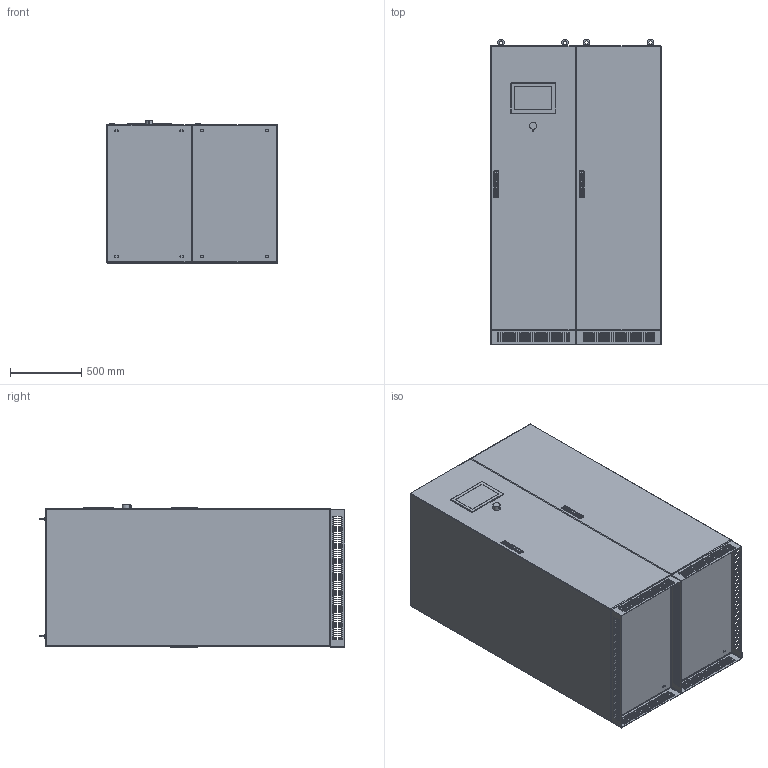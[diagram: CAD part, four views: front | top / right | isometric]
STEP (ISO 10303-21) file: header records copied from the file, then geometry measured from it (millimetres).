
FILE_DESCRIPTION(/* description */ (''),/* implementation_level */ '2;1');
FILE_NAME(/* name */ 'VEDAUPS P600.stp',/* time_stamp */ '2026-02-25T09:07:43+04:00',/* author */ ('Александр (огранич)'),/* organization */ (''),/* preprocessor_version */ 'ST-DEVELOPER v19.2',/* originating_system */ 'Autodesk Inventor 2024',/* authorisation */ '');
FILE_SCHEMA (('AUTOMOTIVE_DESIGN { 1 0 10303 214 3 1 1 }'));
Length unit declared in the file: millimetre
Products named in the file (13): VEDAUPS P100; Дисплей; Разъем; Цоколь; Корпус; Рым-болт DIN 580_
Њ10 (ў230, г170); RAMBLOCK montata modificated_Default; inserto chiave per maniglia RAM BLOCK_AC00C389; Sealing ring; Ingranaggio per cariglione modificated_AC00C388; basetta esterna_AC00C506; maniglia RAM BLOCK modificated_AC00C505; Ввод кабеля
Assembly tree (23 placements, depth 3):
  VEDAUPS P100
    Дисплей
    Разъем
    Цоколь  x2
    Корпус  x2
    RAMBLOCK montata modificated_Default  x3
      inserto chiave per maniglia RAM BLOCK_AC00C389
      Sealing ring
      Ingranaggio per cariglione modificated_AC00C388
      basetta esterna_AC00C506
      maniglia RAM BLOCK modificated_AC00C505
    Рым-болт DIN 580_
Њ10 (ў230, г170)  x8
    Ввод кабеля
Bounding box: 1203.05 x 2145 x 1011 mm (x, y, z)
Volume: 2327723739.3 mm3; surface area: 16896452.2 mm2
Topology: 30 solids, 30 shells, 2784 faces, 7769 edges, 5128 vertices
Faces by surface type: plane 1471, cylinder 1219, cone 35, torus 33, sphere 16, bspline 10
Full cylindrical faces by diameter (mm): 3 x3, 3.2 x3, 3.4 x9, 4.2 x12, 5 x3, 7.8 x8, 8 x1, 8.2 x9, 10 x19, 12.8 x3, 13.8 x6, 14.1 x3, 15.9 x3, 16.2 x3, 25 x8
Entity records: 41227 total; most frequent: CARTESIAN_POINT 7686, DIRECTION 7001, ORIENTED_EDGE 6784, EDGE_CURVE 3392, AXIS2_PLACEMENT_3D 2385, VERTEX_POINT 2238, LINE 2231, VECTOR 2231
